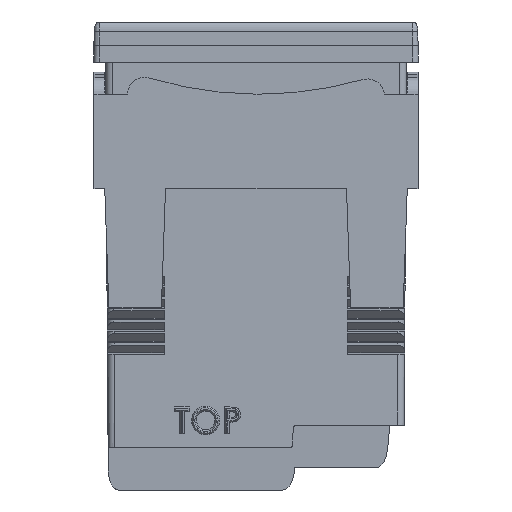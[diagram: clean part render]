
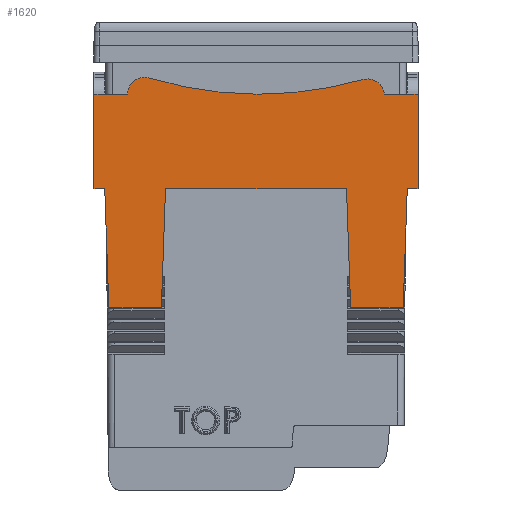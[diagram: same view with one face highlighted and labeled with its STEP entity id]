
A CAD part, front view. The second image highlights one B-rep face of the part: STEP entity #1620.
In plain terms, the highlighted planar face has unit normal (0, -1, 0).
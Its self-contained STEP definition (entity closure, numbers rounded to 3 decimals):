
#1620 = ADVANCED_FACE( 'NONE', ( #3435 ), #3436, .F. );
#3435 = FACE_OUTER_BOUND( '', #5961, .T. );
#3436 = PLANE( '', #5962 );
#5961 = EDGE_LOOP( '', ( #11699, #11700, #11701, #11702, #11703, #11704, #11705, #11706, #11707, #11708, #11709, #11710, #11711, #11712, #11713, #11714, #11715, #11716, #11717 ) );
#5962 = AXIS2_PLACEMENT_3D( '', #11718, #11719, #11720 );
#11699 = ORIENTED_EDGE( '', *, *, #14698, .F. );
#11700 = ORIENTED_EDGE( '', *, *, #14873, .F. );
#11701 = ORIENTED_EDGE( '', *, *, #16045, .F. );
#11702 = ORIENTED_EDGE( '', *, *, #15390, .F. );
#11703 = ORIENTED_EDGE( '', *, *, #16046, .T. );
#11704 = ORIENTED_EDGE( '', *, *, #16047, .F. );
#11705 = ORIENTED_EDGE( '', *, *, #15944, .F. );
#11706 = ORIENTED_EDGE( '', *, *, #16048, .F. );
#11707 = ORIENTED_EDGE( '', *, *, #16049, .F. );
#11708 = ORIENTED_EDGE( '', *, *, #15544, .F. );
#11709 = ORIENTED_EDGE( '', *, *, #15328, .T. );
#11710 = ORIENTED_EDGE( '', *, *, #15662, .F. );
#11711 = ORIENTED_EDGE( '', *, *, #16050, .F. );
#11712 = ORIENTED_EDGE( '', *, *, #15621, .F. );
#11713 = ORIENTED_EDGE( '', *, *, #16051, .T. );
#11714 = ORIENTED_EDGE( '', *, *, #16052, .T. );
#11715 = ORIENTED_EDGE( '', *, *, #14880, .F. );
#11716 = ORIENTED_EDGE( '', *, *, #15178, .F. );
#11717 = ORIENTED_EDGE( '', *, *, #14740, .F. );
#11718 = CARTESIAN_POINT( '', ( -48.761, -44.323, 14. ) );
#11719 = DIRECTION( '', ( 0., 1., 0. ) );
#11720 = DIRECTION( '', ( 1., 0., 0. ) );
#14698 = EDGE_CURVE( 'NONE', #17740, #17735, #17742, .T. );
#14740 = EDGE_CURVE( 'NONE', #17735, #17808, #17809, .T. );
#14873 = EDGE_CURVE( 'NONE', #18026, #17740, #18028, .T. );
#14880 = EDGE_CURVE( 'NONE', #18037, #18039, #18040, .T. );
#15178 = EDGE_CURVE( 'NONE', #17808, #18037, #18500, .T. );
#15328 = EDGE_CURVE( 'NONE', #18740, #18738, #18741, .T. );
#15390 = EDGE_CURVE( 'NONE', #18830, #18831, #18832, .T. );
#15544 = EDGE_CURVE( 'NONE', #18740, #19045, #19046, .T. );
#15621 = EDGE_CURVE( 'NONE', #19149, #19151, #19152, .T. );
#15662 = EDGE_CURVE( 'NONE', #19204, #18738, #19207, .T. );
#15944 = EDGE_CURVE( 'NONE', #19573, #19569, #19575, .T. );
#16045 = EDGE_CURVE( 'NONE', #18831, #18026, #19701, .T. );
#16046 = EDGE_CURVE( 'NONE', #18830, #19702, #19703, .T. );
#16047 = EDGE_CURVE( 'NONE', #19569, #19702, #19704, .T. );
#16048 = EDGE_CURVE( 'NONE', #19705, #19573, #19706, .T. );
#16049 = EDGE_CURVE( 'NONE', #19045, #19705, #19707, .T. );
#16050 = EDGE_CURVE( 'NONE', #19151, #19204, #19708, .T. );
#16051 = EDGE_CURVE( 'NONE', #19149, #19709, #19710, .T. );
#16052 = EDGE_CURVE( 'NONE', #19709, #18039, #19711, .T. );
#17735 = VERTEX_POINT( 'NONE', #22790 );
#17740 = VERTEX_POINT( 'NONE', #22797 );
#17742 = LINE( '', #22800, #22801 );
#17808 = VERTEX_POINT( 'NONE', #22911 );
#17809 = LINE( '', #22912, #22913 );
#18026 = VERTEX_POINT( 'NONE', #23299 );
#18028 = LINE( '', #23302, #23303 );
#18037 = VERTEX_POINT( 'NONE', #23316 );
#18039 = VERTEX_POINT( 'NONE', #23319 );
#18040 = LINE( '', #23320, #23321 );
#18500 = LINE( '', #24216, #24217 );
#18738 = VERTEX_POINT( 'NONE', #24643 );
#18740 = VERTEX_POINT( 'NONE', #24646 );
#18741 = LINE( '', #24647, #24648 );
#18830 = VERTEX_POINT( 'NONE', #24809 );
#18831 = VERTEX_POINT( 'NONE', #24810 );
#18832 = LINE( '', #24811, #24812 );
#19045 = VERTEX_POINT( 'NONE', #25256 );
#19046 = LINE( '', #25257, #25258 );
#19149 = VERTEX_POINT( 'NONE', #25488 );
#19151 = VERTEX_POINT( 'NONE', #25491 );
#19152 = LINE( '', #25492, #25493 );
#19204 = VERTEX_POINT( 'NONE', #25624 );
#19207 = CIRCLE( '', #25628, 56. );
#19569 = VERTEX_POINT( 'NONE', #26504 );
#19573 = VERTEX_POINT( 'NONE', #26510 );
#19575 = LINE( '', #26513, #26514 );
#19701 = LINE( '', #26760, #26761 );
#19702 = VERTEX_POINT( 'NONE', #26762 );
#19703 = LINE( '', #26763, #26764 );
#19704 = LINE( '', #26765, #26766 );
#19705 = VERTEX_POINT( 'NONE', #26767 );
#19706 = CIRCLE( '', #26768, 2.5 );
#19707 = CIRCLE( '', #26769, 56. );
#19708 = CIRCLE( '', #26770, 2.5 );
#19709 = VERTEX_POINT( 'NONE', #26771 );
#19710 = LINE( '', #26772, #26773 );
#19711 = LINE( '', #26774, #26775 );
#22790 = CARTESIAN_POINT( '', ( -38.161, -44.323, 0. ) );
#22797 = CARTESIAN_POINT( '', ( -11.361, -44.323, 0. ) );
#22800 = CARTESIAN_POINT( '', ( -48.761, -44.323, 0. ) );
#22801 = VECTOR( '', #28346, 1000. );
#22911 = CARTESIAN_POINT( '', ( -38.775, -44.323, -17.6 ) );
#22912 = CARTESIAN_POINT( '', ( -38.161, -44.323, 0. ) );
#22913 = VECTOR( '', #28387, 1000. );
#23299 = CARTESIAN_POINT( '', ( -10.746, -44.323, -17.6 ) );
#23302 = CARTESIAN_POINT( '', ( -10.746, -44.323, -17.6 ) );
#23303 = VECTOR( '', #28515, 1000. );
#23316 = CARTESIAN_POINT( '', ( -46.546, -44.323, -17.6 ) );
#23319 = CARTESIAN_POINT( '', ( -47.161, -44.323, 0. ) );
#23320 = CARTESIAN_POINT( '', ( -46.546, -44.323, -17.6 ) );
#23321 = VECTOR( '', #28521, 1000. );
#24216 = CARTESIAN_POINT( '', ( -48.761, -44.323, -17.6 ) );
#24217 = VECTOR( '', #28798, 1000. );
#24643 = CARTESIAN_POINT( '', ( -24.761, -44.323, 14.002 ) );
#24646 = CARTESIAN_POINT( '', ( -24.761, -44.323, 14. ) );
#24647 = CARTESIAN_POINT( '', ( -24.761, -44.323, 14. ) );
#24648 = VECTOR( '', #28988, 1000. );
#24809 = CARTESIAN_POINT( '', ( -2.361, -44.323, 0. ) );
#24810 = CARTESIAN_POINT( '', ( -2.975, -44.323, -17.6 ) );
#24811 = CARTESIAN_POINT( '', ( -2.361, -44.323, 0. ) );
#24812 = VECTOR( '', #29044, 1000. );
#25256 = CARTESIAN_POINT( '', ( -24.342, -44.323, 14. ) );
#25257 = CARTESIAN_POINT( '', ( 0., -44.323, 14. ) );
#25258 = VECTOR( '', #29174, 1000. );
#25488 = CARTESIAN_POINT( '', ( -48.761, -44.323, 14. ) );
#25491 = CARTESIAN_POINT( '', ( -43.761, -44.323, 14. ) );
#25492 = CARTESIAN_POINT( '', ( -48.761, -44.323, 14. ) );
#25493 = VECTOR( '', #29250, 1000. );
#25624 = CARTESIAN_POINT( '', ( -40.538, -44.323, 16.393 ) );
#25628 = AXIS2_PLACEMENT_3D( '', #29277, #29278, #29279 );
#26504 = CARTESIAN_POINT( '', ( -0.761, -44.323, 14. ) );
#26510 = CARTESIAN_POINT( '', ( -5.761, -44.323, 14. ) );
#26513 = CARTESIAN_POINT( '', ( -48.761, -44.323, 14. ) );
#26514 = VECTOR( '', #29519, 1000. );
#26760 = CARTESIAN_POINT( '', ( -48.761, -44.323, -17.6 ) );
#26761 = VECTOR( '', #29594, 1000. );
#26762 = CARTESIAN_POINT( '', ( -0.761, -44.323, 0. ) );
#26763 = CARTESIAN_POINT( '', ( 0., -44.323, 0. ) );
#26764 = VECTOR( '', #29595, 1000. );
#26765 = CARTESIAN_POINT( '', ( -0.761, -44.323, 14. ) );
#26766 = VECTOR( '', #29596, 1000. );
#26767 = CARTESIAN_POINT( '', ( -8.936, -44.323, 16.161 ) );
#26768 = AXIS2_PLACEMENT_3D( '', #29597, #29598, #29599 );
#26769 = AXIS2_PLACEMENT_3D( '', #29600, #29601, #29602 );
#26770 = AXIS2_PLACEMENT_3D( '', #29603, #29604, #29605 );
#26771 = CARTESIAN_POINT( '', ( -48.761, -44.323, 0. ) );
#26772 = CARTESIAN_POINT( '', ( -48.761, -44.323, 14. ) );
#26773 = VECTOR( '', #29606, 1000. );
#26774 = CARTESIAN_POINT( '', ( 0., -44.323, 0. ) );
#26775 = VECTOR( '', #29607, 1000. );
#28346 = DIRECTION( '', ( -1., 0., 0. ) );
#28387 = DIRECTION( '', ( -0.035, 0., -0.999 ) );
#28515 = DIRECTION( '', ( -0.035, 0., 0.999 ) );
#28521 = DIRECTION( '', ( -0.035, 0., 0.999 ) );
#28798 = DIRECTION( '', ( -1., 0., 0. ) );
#28988 = DIRECTION( '', ( 0., 0., 1. ) );
#29044 = DIRECTION( '', ( -0.035, 0., -0.999 ) );
#29174 = DIRECTION( '', ( 1., 0., 0. ) );
#29250 = DIRECTION( '', ( 1., 0., 0. ) );
#29277 = CARTESIAN_POINT( '', ( -24.342, -44.323, 70. ) );
#29278 = DIRECTION( '', ( 0., -1., 0. ) );
#29279 = DIRECTION( '', ( -1., 0., 0. ) );
#29519 = DIRECTION( '', ( 1., 0., 0. ) );
#29594 = DIRECTION( '', ( -1., 0., 0. ) );
#29595 = DIRECTION( '', ( 1., 0., 0. ) );
#29596 = DIRECTION( '', ( 0., 0., -1. ) );
#29597 = CARTESIAN_POINT( '', ( -8.249, -44.323, 13.757 ) );
#29598 = DIRECTION( '', ( 0., 1., 0. ) );
#29599 = DIRECTION( '', ( -1., 0., 0. ) );
#29600 = CARTESIAN_POINT( '', ( -24.342, -44.323, 70. ) );
#29601 = DIRECTION( '', ( 0., -1., 0. ) );
#29602 = DIRECTION( '', ( -1., 0., 0. ) );
#29603 = CARTESIAN_POINT( '', ( -41.261, -44.323, 14. ) );
#29604 = DIRECTION( '', ( 0., 1., 0. ) );
#29605 = DIRECTION( '', ( -1., 0., 0. ) );
#29606 = DIRECTION( '', ( 0., 0., -1. ) );
#29607 = DIRECTION( '', ( 1., 0., 0. ) );
